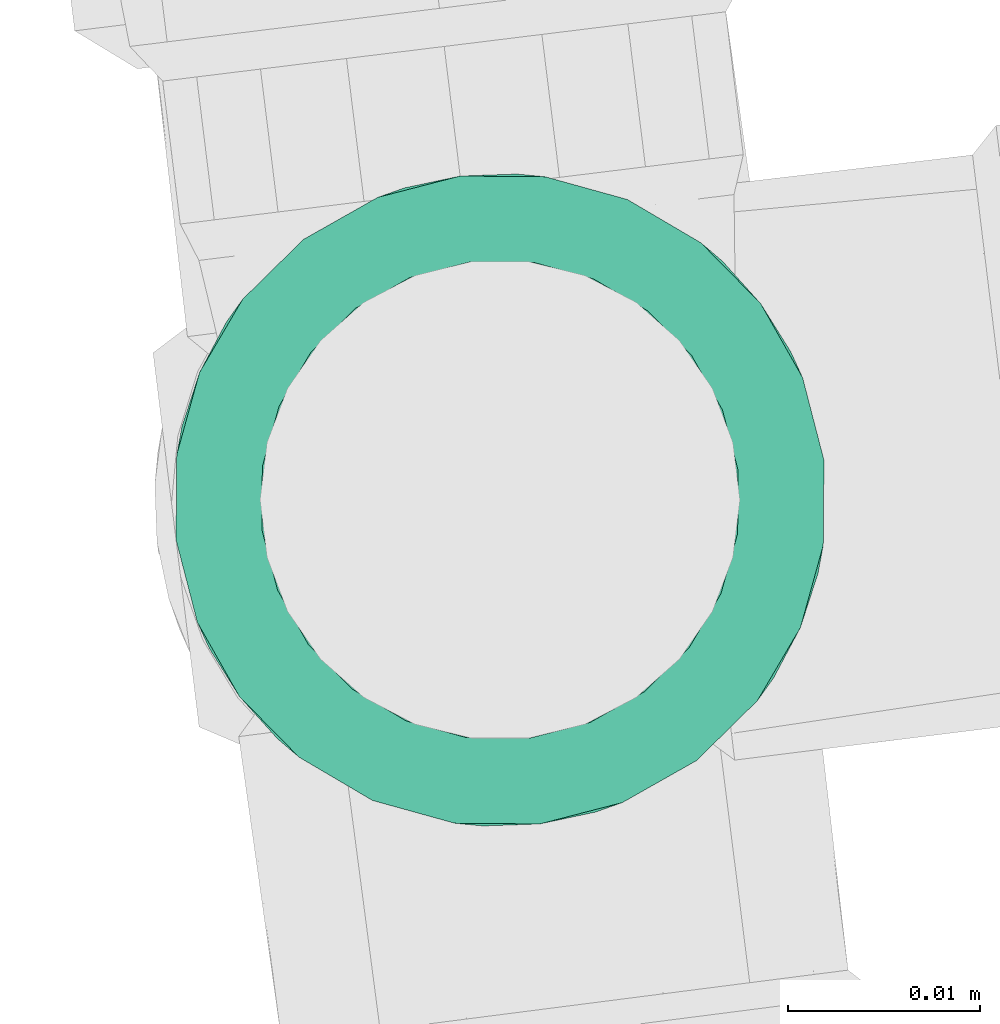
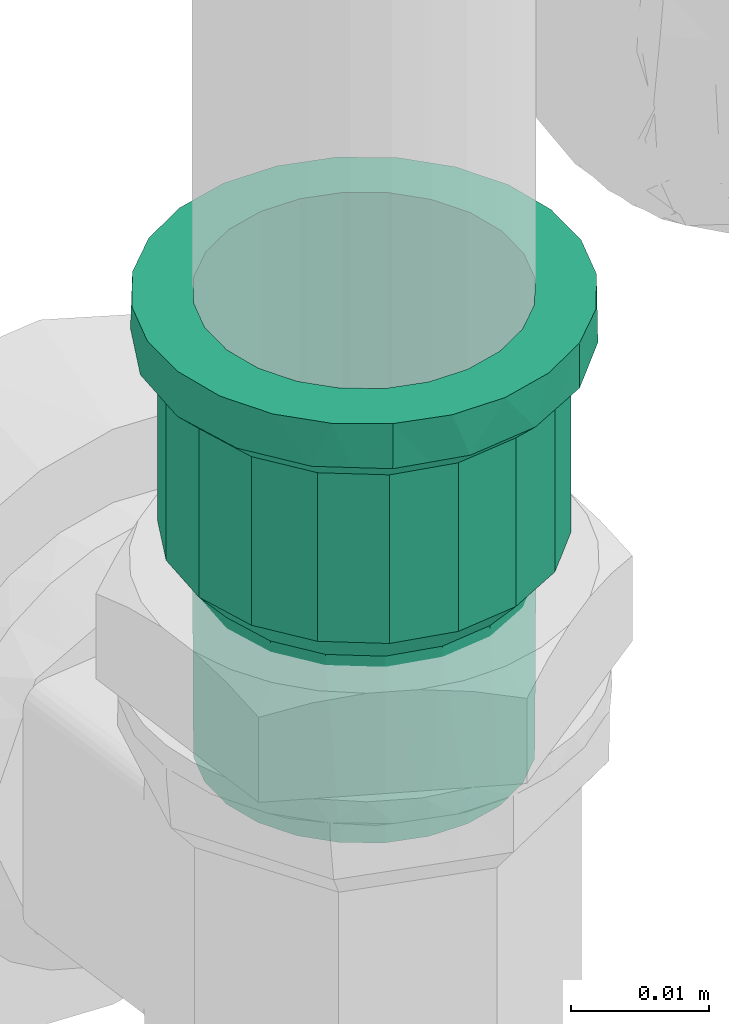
# One storey, part 62 of 97: 1 flow fitting.
"""IFC2X3 building model written with IfcOpenShell, lengths in centimetres."""

from ifc_helpers import new_model, entity, si_unit, converted_unit, derived_unit, direction, frame, origin, place, context, subcontext, project, spatial, faceted_brep, source, transform, mapped, material, type_object, type_shapes, element, save


model = new_model("IFC2X3")

# Units and contexts
model_context = context("Model", 3, precision=0.001, world=origin(), true_north=direction((6.12303176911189e-17, 1.0)))
body_context = subcontext(model_context, "Body", "Model", "MODEL_VIEW")
ifc_project = project(units=[si_unit("LENGTHUNIT", "METRE", prefix="CENTI"), si_unit("AREAUNIT", "SQUARE_METRE"), si_unit("VOLUMEUNIT", "CUBIC_METRE"), converted_unit("PLANEANGLEUNIT", "DEGREE", entity("IfcRatioMeasure", 0.0174532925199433), si_unit("PLANEANGLEUNIT", "RADIAN"), dimensions=[0, 0, 0, 0, 0, 0, 0]), si_unit("MASSUNIT", "GRAM", prefix="KILO"), derived_unit("MASSDENSITYUNIT", [(si_unit("MASSUNIT", "GRAM", prefix="KILO"), 1), (si_unit("LENGTHUNIT", "METRE"), -3)]), derived_unit("MOMENTOFINERTIAUNIT", [(si_unit("LENGTHUNIT", "METRE"), 4)]), si_unit("TIMEUNIT", "SECOND"), si_unit("FREQUENCYUNIT", "HERTZ"), si_unit("THERMODYNAMICTEMPERATUREUNIT", "DEGREE_CELSIUS"), derived_unit("THERMALTRANSMITTANCEUNIT", [(si_unit("MASSUNIT", "GRAM", prefix="KILO"), 1), (si_unit("THERMODYNAMICTEMPERATUREUNIT", "KELVIN"), -1), (si_unit("TIMEUNIT", "SECOND"), -3)]), derived_unit("VOLUMETRICFLOWRATEUNIT", [(si_unit("LENGTHUNIT", "METRE"), 3), (si_unit("TIMEUNIT", "SECOND"), -1)]), si_unit("ELECTRICCURRENTUNIT", "AMPERE"), si_unit("ELECTRICVOLTAGEUNIT", "VOLT"), si_unit("POWERUNIT", "WATT"), si_unit("FORCEUNIT", "NEWTON", prefix="KILO"), si_unit("ILLUMINANCEUNIT", "LUX"), si_unit("LUMINOUSFLUXUNIT", "LUMEN"), si_unit("LUMINOUSINTENSITYUNIT", "CANDELA"), derived_unit("USERDEFINED", [(si_unit("MASSUNIT", "GRAM", prefix="KILO"), -1), (si_unit("LENGTHUNIT", "METRE"), -2), (si_unit("TIMEUNIT", "SECOND"), 3), (si_unit("LUMINOUSFLUXUNIT", "LUMEN"), 1)]), derived_unit("LINEARVELOCITYUNIT", [(si_unit("LENGTHUNIT", "METRE"), 1), (si_unit("TIMEUNIT", "SECOND"), -1)]), si_unit("PRESSUREUNIT", "PASCAL"), derived_unit("USERDEFINED", [(si_unit("LENGTHUNIT", "METRE"), -2), (si_unit("MASSUNIT", "GRAM", prefix="KILO"), 1), (si_unit("TIMEUNIT", "SECOND"), -2)]), derived_unit("LINEARFORCEUNIT", [(si_unit("MASSUNIT", "GRAM", prefix="KILO"), 1), (si_unit("LENGTHUNIT", "METRE"), 1), (si_unit("TIMEUNIT", "SECOND"), -2), (si_unit("LENGTHUNIT", "METRE"), -1)]), derived_unit("PLANARFORCEUNIT", [(si_unit("MASSUNIT", "GRAM", prefix="KILO"), 1), (si_unit("LENGTHUNIT", "METRE"), 1), (si_unit("TIMEUNIT", "SECOND"), -2), (si_unit("LENGTHUNIT", "METRE"), -2)])], contexts=[model_context])

# Site, building, storey
site_placement = place(None, origin())
site = spatial("IfcSite", under=ifc_project, at=site_placement, Name="Default", CompositionType="ELEMENT")
building_placement = place(site_placement, origin())
building = spatial("IfcBuilding", under=site, at=building_placement, Name="HIDROSSANITÁRIO", CompositionType="ELEMENT")
storey_placement = place(building_placement, frame((0.0, 0.0, -260.0)))
storey = spatial("IfcBuildingStorey", under=building, at=storey_placement, Name="TÉRREO-HID", CompositionType="ELEMENT", Elevation=-260.0)

# Flow fitting
ifc_material = material(Name="PVC Marrom")
pipe_fitting_type = type_object("IfcPipeFittingType", Name="PVC Marrom Soldável_Adaptador Curto com Bolsa e Rosca Aninhado:Adaptador", PredefinedType="NOTDEFINED", material=ifc_material)
shared_shape = source(origin(), body_context, "Body", "Brep", [
    faceted_brep([(0.0, 0.624999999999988, -1.08253175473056), (0.0, 1.20208152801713, -1.20208152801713), (0.0, 0.850000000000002, -1.47224318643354), (0.0, 0.883883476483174, -0.883883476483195), (0.0, 0.323523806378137, -1.20740728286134), (0.0, 1.47224318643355, -0.849999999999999), (0.0, 1.08253175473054, -0.625000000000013), (0.0, 1.20740728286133, -0.323523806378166), (0.0, 1.64207390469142, -0.439992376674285), (0.0, 1.25, 0.0), (0.0, 1.7, 0.0), (0.0, 1.20740728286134, 0.323523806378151), (0.0, 1.64207390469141, 0.439992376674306), (0.0, 1.08253175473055, 0.625), (0.0, 1.47224318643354, 0.850000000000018), (0.0, 0.883883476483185, 0.883883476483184), (0.0, 1.20208152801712, 1.20208152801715), (0.0, 0.625000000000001, 1.08253175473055), (0.0, 0.849999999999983, 1.47224318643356), (0.0, 0.323523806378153, 1.20740728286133), (0.0, 0.439992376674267, 1.64207390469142), (0.0, 0.0, 1.25), (0.0, 0.0, 1.7), (0.0, -0.323523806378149, 1.20740728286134), (0.0, -0.439992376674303, 1.64207390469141), (0.0, -0.624999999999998, 1.08253175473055), (0.0, -0.850000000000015, 1.47224318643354), (0.0, -0.883883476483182, 0.883883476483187), (0.0, -1.20208152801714, 1.20208152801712), (0.0, -1.08253175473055, 0.625000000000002), (0.0, -1.47224318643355, 0.849999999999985), (0.0, -1.64207390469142, 0.439992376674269), (0.0, -1.20740728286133, 0.323523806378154), (0.0, -1.7, 0.0), (0.0, -1.25, 0.0), (0.0, -1.64207390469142, -0.43999237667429), (0.0, -1.20740728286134, -0.323523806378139), (0.0, -1.47224318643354, -0.850000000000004), (0.0, -1.08253175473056, -0.624999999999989), (0.0, -1.20208152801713, -1.20208152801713), (0.0, -0.883883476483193, -0.883883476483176), (0.0, -0.849999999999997, -1.47224318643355), (0.0, -0.625000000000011, -1.08253175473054), (0.0, -0.439992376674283, -1.64207390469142), (0.0, -0.323523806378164, -1.20740728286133), (0.0, 0.0, -1.7), (0.0, 0.0, -1.25), (0.0, 0.439992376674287, -1.64207390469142), (0.399999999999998, -1.64873062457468, 0.290739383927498), (0.399999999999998, -1.59746124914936, 0.581478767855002), (0.399999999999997, -1.30221463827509, 1.09281152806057), (0.399999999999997, -1.07604576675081, 1.28256289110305), (0.399999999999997, -1.44983794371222, 0.837145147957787), (0.399999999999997, -0.295015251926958, 1.67420608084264), (0.399999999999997, -0.57244607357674, 1.57326016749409), (0.399999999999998, -1.7, 0.0), (0.399999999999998, -1.659968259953, 0.227012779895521), (0.399999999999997, -0.849876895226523, 1.47231425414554), (0.399999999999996, 0.572840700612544, 1.57311652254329), (0.399999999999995, 0.850246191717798, 1.47210102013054), (0.399999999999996, 0.295435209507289, 1.67413202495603), (0.399999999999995, 1.07636745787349, 1.28229292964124), (0.399999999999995, 1.30248872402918, 1.09248483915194), (0.399999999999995, 1.5976070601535, 0.581078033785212), (0.399999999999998, 1.7, 0.0), (0.399999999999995, 1.45004789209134, 0.836781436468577), (0.399999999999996, 0.000209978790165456, 1.67416905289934), (0.400000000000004, 1.59760706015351, -0.581078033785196), (0.400000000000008, 1.30248872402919, -1.09248483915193), (0.400000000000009, 1.0763674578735, -1.28229292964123), (0.400000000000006, 1.45004789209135, -0.836781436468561), (0.400000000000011, 0.295435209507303, -1.67413202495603), (0.40000000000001, 0.572840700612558, -1.57311652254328), (0.40000000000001, 0.850246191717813, -1.47210102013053), (0.4, -1.64873062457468, -0.290739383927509), (0.400000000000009, -0.572446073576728, -1.57326016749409), (0.400000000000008, -0.849876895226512, -1.47231425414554), (0.40000000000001, -0.295015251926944, -1.67420608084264), (0.400000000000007, -1.0760457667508, -1.28256289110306), (0.400000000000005, -1.30221463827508, -1.09281152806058), (0.400000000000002, -1.59746124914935, -0.581478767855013), (0.400000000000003, -1.44983794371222, -0.837145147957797), (0.40000000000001, 0.000209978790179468, -1.67416905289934), (0.399999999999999, -1.65996825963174, -0.227012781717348), (2.085, -1.41422304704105, 0.514779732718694), (0.590000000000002, -1.41422304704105, 0.514779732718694), (0.590000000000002, -1.45961152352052, 0.257389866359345), (0.590000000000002, -1.505, 0.0), (2.085, -1.505, 0.0), (2.085, -1.45961152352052, 0.257389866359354), (2.085, -1.45359735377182, 0.291495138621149), (2.08499999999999, -0.752391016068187, 1.30343114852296), (0.590000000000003, -0.752391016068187, 1.30343114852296), (0.590000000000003, -0.952616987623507, 1.13544538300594), (0.590000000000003, -1.15284295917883, 0.967459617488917), (2.08499999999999, -1.15284295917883, 0.967459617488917), (2.08499999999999, -0.952616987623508, 1.13544538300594), (0.590000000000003, -1.28353300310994, 0.741119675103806), (2.085, -1.28353300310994, 0.741119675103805), (0.590000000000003, -0.506783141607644, 1.39279797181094), (2.08499999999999, -0.506783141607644, 1.39279797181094), (2.08499999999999, -0.261175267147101, 1.48216479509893), (0.590000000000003, -0.261175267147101, 1.48216479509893), (0.590000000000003, 0.000185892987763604, 1.48213201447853), (2.08499999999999, 0.000185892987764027, 1.48213201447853), (2.08499999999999, 0.261547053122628, 1.48209923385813), (0.590000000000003, 0.261547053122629, 1.48209923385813), (2.08499999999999, 0.75271795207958, 1.3032423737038), (0.590000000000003, 0.752717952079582, 1.3032423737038), (0.590000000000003, 0.507132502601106, 1.39267080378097), (2.08499999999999, 0.507132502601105, 1.39267080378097), (2.08499999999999, 1.15308560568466, 0.967170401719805), (0.590000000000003, 1.15308560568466, 0.967170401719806), (0.590000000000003, 0.952901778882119, 1.1352063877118), (2.08499999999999, 0.952901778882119, 1.1352063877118), (2.085, 1.4143521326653, 0.514424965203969), (0.590000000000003, 1.4143521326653, 0.514424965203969), (0.590000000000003, 1.28371886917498, 0.740797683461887), (2.085, 1.28371886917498, 0.740797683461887), (2.085, 1.505, 0.0), (0.590000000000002, 1.505, 0.0), (2.08500000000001, 1.41435213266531, -0.514424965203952), (0.590000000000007, 1.41435213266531, -0.514424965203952), (0.590000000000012, 0.752717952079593, -1.3032423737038), (0.590000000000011, 0.95290177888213, -1.13520638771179), (0.59000000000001, 1.15308560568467, -0.967170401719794), (2.08500000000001, 1.15308560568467, -0.967170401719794), (2.08500000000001, 0.95290177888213, -1.13520638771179), (2.08500000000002, 0.752717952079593, -1.3032423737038), (2.08500000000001, -1.41422304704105, -0.514779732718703), (0.590000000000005, -1.41422304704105, -0.514779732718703), (0.590000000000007, -1.28353300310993, -0.741119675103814), (0.590000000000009, -1.15284295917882, -0.967459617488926), (2.08500000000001, -1.15284295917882, -0.967459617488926), (2.08500000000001, -1.28353300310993, -0.741119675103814), (2.08500000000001, -0.752391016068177, -1.30343114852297), (0.590000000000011, -0.752391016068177, -1.30343114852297), (0.590000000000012, -0.506783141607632, -1.39279797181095), (0.590000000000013, -0.261175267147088, -1.48216479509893), (2.08500000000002, -0.261175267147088, -1.48216479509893), (2.08500000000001, -0.506783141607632, -1.39279797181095), (0.590000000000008, 1.28371886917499, -0.740797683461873), (2.08500000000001, 1.28371886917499, -0.740797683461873), (0.590000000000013, 0.507132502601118, -1.39267080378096), (2.08500000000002, 0.507132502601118, -1.39267080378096), (2.08500000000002, 0.261547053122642, -1.48209923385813), (0.590000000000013, 0.261547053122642, -1.48209923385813), (2.085, -1.45359734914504, -0.291495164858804), (2.085, -1.46677519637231, -0.216765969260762), (0.590000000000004, -1.45961152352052, -0.257389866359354), (0.59000000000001, -0.952616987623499, -1.13544538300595), (2.08500000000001, -0.952616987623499, -1.13544538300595), (0.590000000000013, 0.000185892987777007, -1.48213201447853), (2.08500000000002, 0.000185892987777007, -1.48213201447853), (4.03, 0.323523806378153, -1.20740728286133), (4.03, 0.625000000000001, -1.08253175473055), (4.03, 0.883883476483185, -0.883883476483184), (4.03, 1.08253175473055, -0.624999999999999), (4.03, 1.20740728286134, -0.323523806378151), (4.03, 1.25, 0.0), (4.03, 1.20740728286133, 0.323523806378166), (4.03, 1.08253175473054, 0.625000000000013), (4.03, 0.883883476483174, 0.883883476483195), (4.03, 0.624999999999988, 1.08253175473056), (4.03, 0.323523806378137, 1.20740728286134), (4.03, 0.0, 1.25), (4.03, -0.323523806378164, 1.20740728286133), (4.03, -0.625000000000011, 1.08253175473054), (4.03, -0.883883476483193, 0.883883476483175), (4.03, -1.08253175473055, 0.624999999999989), (4.03, -1.20740728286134, 0.323523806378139), (4.03, -1.25, 0.0), (4.03, -1.20740728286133, -0.323523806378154), (4.03, -1.08253175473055, -0.625000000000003), (4.03, -0.883883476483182, -0.883883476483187), (4.03, -0.624999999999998, -1.08253175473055), (4.03, -0.323523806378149, -1.20740728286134), (4.03, 0.0, -1.25), (2.375, -1.25, 0.0), (2.37499999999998, -0.957510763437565, 0.803537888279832), (2.37499999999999, -1.17460385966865, 0.427557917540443), (2.37499999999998, -0.624909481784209, 1.08258401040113), (2.37499999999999, -1.06605731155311, 0.615547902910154), (2.375, -1.21825182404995, 0.180038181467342), (2.37499999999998, -0.216922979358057, 1.23103388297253), (2.37499999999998, -0.420916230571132, 1.15680894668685), (2.37499999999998, -0.791210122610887, 0.943060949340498), (2.37499999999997, 0.217231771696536, 1.23097943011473), (2.37499999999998, 0.625181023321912, 1.08242722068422), (2.37499999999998, 0.957712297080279, 0.803297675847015), (2.37499999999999, 1.17471107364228, 0.427263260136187), (2.37499999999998, 0.791446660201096, 0.94286244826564), (2.37499999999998, 0.421206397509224, 1.1567033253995), (2.375, 1.25, 0.0), (2.37499999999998, 1.06621168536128, 0.615280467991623), (2.37499999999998, 0.000154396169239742, 1.23100665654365), (2.37500000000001, 0.957712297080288, -0.803297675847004), (2.375, 1.17471107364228, -0.427263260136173), (2.37500000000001, 0.625181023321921, -1.08242722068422), (2.37500000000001, 1.06621168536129, -0.615280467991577), (2.37500000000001, 0.217231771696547, -1.23097943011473), (2.37500000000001, 0.421206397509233, -1.15670332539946), (2.37500000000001, 0.791446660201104, -0.942862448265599), (2.37500000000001, -0.216922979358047, -1.23103388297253), (2.37500000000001, -0.6249094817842, -1.08258401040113), (2.375, -0.957510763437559, -0.803537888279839), (2.375, -1.17460385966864, -0.427557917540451), (2.37500000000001, -0.79121012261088, -0.943060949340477), (2.37500000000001, -0.420916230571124, -1.15680894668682), (2.375, -1.21230192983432, -0.213778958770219), (2.375, -1.0660573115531, -0.615547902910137), (2.37500000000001, 0.00015439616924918, -1.23100665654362), (0.590000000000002, -1.25, 0.0), (2.085, -1.25, 0.0), (2.085, -1.20740728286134, -0.323523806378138), (0.590000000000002, -1.20740728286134, -0.323523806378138), (0.399999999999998, -1.20740728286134, -0.323523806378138), (0.399999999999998, -1.25, 0.0), (2.085, -1.08253175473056, -0.624999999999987), (0.590000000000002, -1.08253175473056, -0.624999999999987), (0.399999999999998, -1.08253175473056, -0.624999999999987), (0.590000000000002, -0.625000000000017, -1.08253175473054), (0.399999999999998, -0.625000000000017, -1.08253175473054), (0.399999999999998, -0.883883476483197, -0.883883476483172), (0.590000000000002, -0.883883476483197, -0.883883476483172), (2.085, -0.883883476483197, -0.883883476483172), (2.085, -0.625000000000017, -1.08253175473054), (0.590000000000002, -0.32352380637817, -1.20740728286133), (0.399999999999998, -0.32352380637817, -1.20740728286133), (2.085, -0.32352380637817, -1.20740728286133), (2.085, 0.0, -1.25), (0.590000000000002, 0.0, -1.25), (0.399999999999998, 0.0, -1.25), (2.085, 0.323523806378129, -1.20740728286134), (0.590000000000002, 0.323523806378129, -1.20740728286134), (0.399999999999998, 0.323523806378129, -1.20740728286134), (2.085, 0.624999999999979, -1.08253175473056), (0.590000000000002, 0.624999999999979, -1.08253175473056), (0.399999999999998, 0.624999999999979, -1.08253175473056), (0.590000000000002, 1.08253175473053, -0.625000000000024), (0.399999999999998, 1.08253175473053, -0.625000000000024), (0.399999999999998, 0.883883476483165, -0.883883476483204), (0.590000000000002, 0.883883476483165, -0.883883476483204), (2.085, 0.883883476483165, -0.883883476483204), (2.085, 1.08253175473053, -0.625000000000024), (0.590000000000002, 1.20740728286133, -0.323523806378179), (0.399999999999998, 1.20740728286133, -0.323523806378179), (2.085, 1.20740728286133, -0.323523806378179), (2.085, 1.25, 0.0), (0.590000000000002, 1.25, 0.0), (0.399999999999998, 1.25, 0.0), (2.085, 1.20740728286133, 0.323523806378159), (0.590000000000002, 1.20740728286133, 0.323523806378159), (0.399999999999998, 1.20740728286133, 0.323523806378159), (2.085, 1.08253175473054, 0.625000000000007), (0.590000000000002, 1.08253175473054, 0.625000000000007), (0.399999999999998, 1.08253175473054, 0.625000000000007), (0.590000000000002, 0.624999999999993, 1.08253175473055), (0.399999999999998, 0.624999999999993, 1.08253175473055), (0.399999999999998, 0.883883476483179, 0.88388347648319), (0.590000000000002, 0.883883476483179, 0.88388347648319), (2.085, 0.883883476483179, 0.88388347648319), (2.085, 0.624999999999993, 1.08253175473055), (0.590000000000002, 0.323523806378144, 1.20740728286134), (0.399999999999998, 0.323523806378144, 1.20740728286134), (2.085, 0.323523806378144, 1.20740728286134), (2.085, 0.0, 1.25), (0.590000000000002, 0.0, 1.25), (0.399999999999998, 0.0, 1.25), (2.085, -0.323523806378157, 1.20740728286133), (0.590000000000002, -0.323523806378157, 1.20740728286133), (0.399999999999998, -0.323523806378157, 1.20740728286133), (2.085, -0.625000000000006, 1.08253175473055), (0.590000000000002, -0.625000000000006, 1.08253175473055), (0.399999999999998, -0.625000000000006, 1.08253175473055), (0.590000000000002, -1.08253175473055, 0.624999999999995), (0.399999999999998, -1.08253175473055, 0.624999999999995), (0.399999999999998, -0.883883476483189, 0.88388347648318), (0.590000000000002, -0.883883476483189, 0.88388347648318), (2.085, -0.883883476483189, 0.88388347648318), (2.085, -1.08253175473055, 0.624999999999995), (0.590000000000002, -1.20740728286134, 0.323523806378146), (0.399999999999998, -1.20740728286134, 0.323523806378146), (2.085, -1.20740728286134, 0.323523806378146)], [[[0, 1, 2]], [[3, 1, 0]], [[4, 0, 2]], [[1, 3, 5]], [[5, 3, 6]], [[5, 6, 7]], [[8, 5, 7]], [[9, 8, 7]], [[10, 8, 9]], [[10, 9, 11]], [[12, 10, 11]], [[12, 11, 13]], [[14, 12, 13]], [[14, 13, 15]], [[15, 16, 14]], [[15, 17, 16]], [[18, 16, 17]], [[19, 18, 17]], [[18, 19, 20]], [[21, 20, 19]], [[22, 20, 21]], [[21, 23, 22]], [[24, 22, 23]], [[25, 24, 23]], [[24, 25, 26]], [[25, 27, 26]], [[27, 28, 26]], [[28, 27, 29]], [[28, 29, 30]], [[30, 29, 31]], [[31, 29, 32]], [[33, 31, 32]], [[32, 34, 33]], [[33, 34, 35]], [[34, 36, 35]], [[37, 35, 36]], [[37, 36, 38]], [[39, 37, 38]], [[40, 39, 38]], [[40, 41, 39]], [[42, 41, 40]], [[43, 41, 42]], [[42, 44, 43]], [[43, 44, 45]], [[46, 45, 44]], [[46, 4, 47]], [[45, 46, 47]], [[2, 47, 4]], [[48, 49, 31]], [[28, 50, 51]], [[50, 30, 49, 52]], [[53, 24, 54]], [[30, 31, 49]], [[33, 55, 56, 48]], [[51, 57, 26]], [[51, 26, 28]], [[30, 50, 28]], [[58, 59, 18]], [[58, 18, 20]], [[26, 57, 54]], [[26, 54, 24]], [[22, 24, 53]], [[33, 48, 31]], [[20, 60, 58]], [[16, 61, 62]], [[12, 63, 64]], [[63, 14, 62, 65]], [[12, 64, 10]], [[18, 61, 16]], [[22, 53, 66, 60]], [[22, 60, 20]], [[14, 16, 62]], [[59, 61, 18]], [[14, 63, 12]], [[8, 64, 67]], [[1, 68, 69]], [[68, 5, 67, 70]], [[71, 47, 72]], [[5, 8, 67]], [[8, 10, 64]], [[2, 72, 47]], [[69, 73, 2]], [[5, 68, 1]], [[74, 33, 35]], [[75, 76, 41]], [[2, 73, 72]], [[75, 41, 43]], [[45, 47, 71]], [[69, 2, 1]], [[43, 77, 75]], [[39, 78, 79]], [[35, 80, 74]], [[80, 37, 79, 81]], [[37, 80, 35]], [[41, 78, 39]], [[45, 71, 82, 77]], [[45, 77, 43]], [[37, 39, 79]], [[76, 78, 41]], [[33, 74, 83, 55]], [[84, 85, 86, 87, 88, 89, 90]], [[91, 92, 93, 94, 95, 96]], [[97, 85, 84, 98, 95, 94]], [[99, 92, 91, 100, 101, 102]], [[103, 102, 101, 104, 105, 106]], [[107, 108, 109, 106, 105, 110]], [[111, 112, 113, 108, 107, 114]], [[115, 116, 117, 112, 111, 118]], [[115, 119, 120, 116]], [[120, 119, 121, 122]], [[123, 124, 125, 126, 127, 128]], [[129, 130, 131, 132, 133, 134]], [[135, 136, 137, 138, 139, 140]], [[141, 122, 121, 142, 126, 125]], [[143, 123, 128, 144, 145, 146]], [[147, 148, 88, 87, 149, 130, 129]], [[133, 132, 150, 136, 135, 151]], [[152, 146, 145, 153, 139, 138]], [[154, 155, 156, 157, 158, 159, 160, 161, 162, 163, 164, 165, 166, 167, 168, 169, 170, 171, 172, 173, 174, 175, 176, 177]], [[178, 171, 170]], [[179, 169, 168]], [[170, 169, 180]], [[168, 167, 181]], [[169, 179, 182, 180]], [[170, 180, 183, 178]], [[166, 184, 185, 181]], [[168, 181, 186, 179]], [[184, 166, 165]], [[181, 167, 166]], [[164, 187, 165]], [[163, 188, 164]], [[189, 162, 161]], [[163, 162, 188]], [[190, 161, 160]], [[162, 189, 191, 188]], [[164, 188, 192, 187]], [[160, 193, 190]], [[161, 190, 194, 189]], [[160, 159, 193]], [[165, 187, 195, 184]], [[193, 159, 158]], [[196, 157, 156]], [[158, 157, 197]], [[156, 155, 198]], [[157, 196, 199, 197]], [[197, 193, 158]], [[154, 200, 201, 198]], [[156, 198, 202, 196]], [[200, 154, 177]], [[198, 155, 154]], [[176, 203, 177]], [[175, 204, 176]], [[205, 174, 173]], [[175, 174, 204]], [[206, 173, 172]], [[174, 205, 207, 204]], [[176, 204, 208, 203]], [[172, 178, 209, 206]], [[173, 206, 210, 205]], [[172, 171, 178]], [[177, 203, 211, 200]], [[212, 213, 214, 215, 216, 36, 34, 217]], [[215, 214, 218, 219, 220, 38, 36, 216]], [[221, 222, 42, 40, 223, 224, 225, 226]], [[225, 224, 223, 40, 38, 220, 219, 218]], [[227, 228, 44, 42, 222, 221, 226, 229]], [[227, 229, 230, 231, 232, 46, 44, 228]], [[231, 230, 233, 234, 235, 4, 46, 232]], [[234, 233, 236, 237, 238, 0, 4, 235]], [[239, 240, 6, 3, 241, 242, 243, 244]], [[243, 242, 241, 3, 0, 238, 237, 236]], [[245, 246, 7, 6, 240, 239, 244, 247]], [[245, 247, 248, 249, 250, 9, 7, 246]], [[249, 248, 251, 252, 253, 11, 9, 250]], [[252, 251, 254, 255, 256, 13, 11, 253]], [[257, 258, 17, 15, 259, 260, 261, 262]], [[261, 260, 259, 15, 13, 256, 255, 254]], [[263, 264, 19, 17, 258, 257, 262, 265]], [[263, 265, 266, 267, 268, 21, 19, 264]], [[267, 266, 269, 270, 271, 23, 21, 268]], [[270, 269, 272, 273, 274, 25, 23, 271]], [[275, 276, 29, 27, 277, 278, 279, 280]], [[279, 278, 277, 27, 25, 274, 273, 272]], [[281, 282, 32, 29, 276, 275, 280, 283]], [[281, 283, 213, 212, 217, 34, 32, 282]], [[120, 122, 67, 64]], [[73, 123, 143, 146, 71, 72]], [[123, 73, 69, 68, 125, 124]], [[70, 67, 122, 141, 125, 68]], [[77, 138, 137, 136, 76, 75]], [[130, 80, 81, 79, 132, 131]], [[149, 87, 55, 83, 74, 80, 130]], [[82, 71, 146, 152, 138, 77]], [[78, 76, 136, 150, 132, 79]], [[49, 48, 56, 55, 87, 86, 85]], [[52, 49, 85, 97, 94, 50]], [[51, 50, 94, 93, 92, 57]], [[92, 99, 102, 53, 54, 57]], [[103, 106, 60, 66, 53, 102]], [[109, 108, 59, 58, 60, 106]], [[116, 120, 64, 63]], [[112, 117, 116, 63, 65, 62]], [[108, 113, 112, 62, 61, 59]], [[233, 230, 229, 226, 225, 218, 214, 213, 283, 280, 279, 272, 269, 266, 265, 262, 261, 254, 251, 248, 247, 244, 243, 236]], [[180, 84, 90, 89, 88, 178, 183]], [[184, 101, 100, 91, 181, 185]], [[96, 95, 179, 186, 181, 91]], [[98, 84, 180, 182, 179, 95]], [[101, 184, 195, 187, 105, 104]], [[190, 115, 118, 111, 189, 194]], [[105, 187, 192, 188, 107, 110]], [[190, 193, 119, 115]], [[114, 107, 188, 191, 189, 111]], [[193, 197, 121, 119]], [[128, 198, 201, 200, 145, 144]], [[198, 128, 127, 126, 196, 202]], [[142, 121, 197, 199, 196, 126]], [[139, 203, 208, 204, 135, 140]], [[206, 129, 134, 133, 205, 210]], [[209, 178, 88, 148, 147, 129, 206]], [[153, 145, 200, 211, 203, 139]], [[151, 135, 204, 207, 205, 133]]]),
])
type_shapes(pipe_fitting_type, [shared_shape])
flow_fitting_placement = place(storey_placement, frame((-1799.22604085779, 2883.95602249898, 185.475000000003), z_axis=(-0.122152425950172, 0.992511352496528, 0.0), x_axis=(0.0, 0.0, -1.0)))
element("IfcFlowFitting", 1, at=flow_fitting_placement, inside=storey, type_object=pipe_fitting_type, material=ifc_material, Name="PVC Marrom Soldável_Adaptador Curto com Bolsa e Rosca Aninhado:Adaptador", ObjectType="PVC Marrom Soldável_Adaptador Curto com Bolsa e Rosca Aninhado:Adaptador", context=body_context, shape_type="MappedRepresentation", body=[
    mapped(shared_shape, transform((0.0, 0.0, 0.0), scale=1.0)),
])

save(model, "model.ifc")
